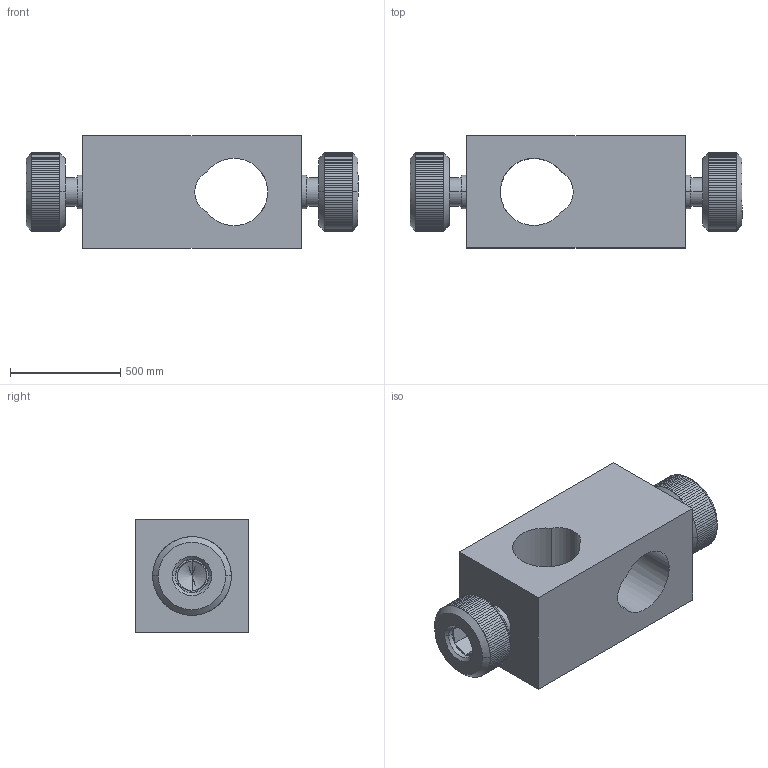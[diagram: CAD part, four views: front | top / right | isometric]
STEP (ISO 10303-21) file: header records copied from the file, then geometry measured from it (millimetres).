
FILE_DESCRIPTION (( 'STEP AP203' ), '1' );
FILE_NAME ('3RPC-12.STEP', '2008-12-05T14:30:27', ( 'Darius' ), ( '' ), 'SwSTEP 2.0', 'SolidWorks 2003240', '' );
FILE_SCHEMA (( 'CONFIG_CONTROL_DESIGN' ));
Length unit declared in the file: inch
Products named in the file (1): 3RPC-12
Bounding box: 1503.68 x 508 x 508 mm (x, y, z)
Volume: 208660018.4 mm3; surface area: 4128877.5 mm2
Topology: 1 solids, 1 shells, 710 faces, 1254 edges, 552 vertices
Faces by surface type: plane 662, cylinder 30, cone 16, bspline 2
Entity records: 16445 total; most frequent: DIRECTION 3174, CARTESIAN_POINT 2817, ORIENTED_EDGE 2500, EDGE_CURVE 1250, AXIS2_PLACEMENT_3D 1221, VECTOR 732, LINE 732, EDGE_LOOP 724
